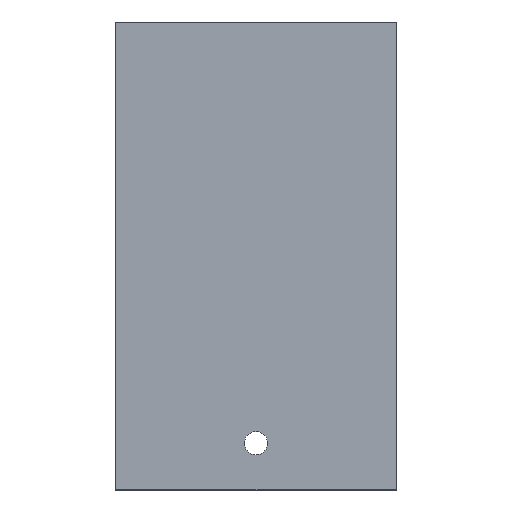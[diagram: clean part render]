
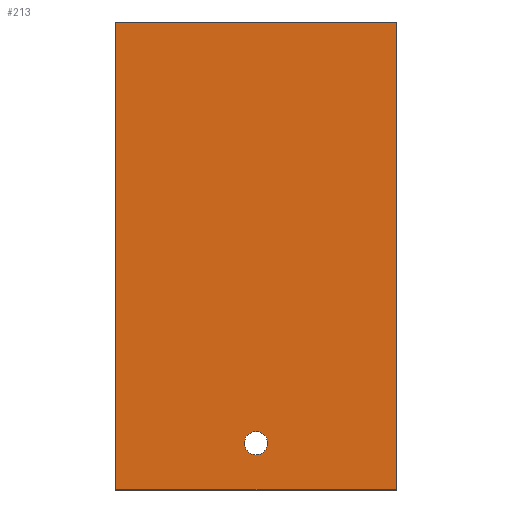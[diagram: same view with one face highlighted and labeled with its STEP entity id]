
A CAD part, top view. The second image highlights one B-rep face of the part: STEP entity #213.
In plain terms, the highlighted planar face has unit normal (0, 0, 1).
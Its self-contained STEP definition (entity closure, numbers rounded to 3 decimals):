
#24 = VERTEX_POINT('',#25);
#25 = CARTESIAN_POINT('',(40.,-30.,4.));
#32 = PLANE('',#33);
#33 = AXIS2_PLACEMENT_3D('',#34,#35,#36);
#34 = CARTESIAN_POINT('',(40.,-30.,3.4));
#35 = DIRECTION('',(1.,0.,0.));
#36 = DIRECTION('',(0.,0.,1.));
#44 = PLANE('',#45);
#45 = AXIS2_PLACEMENT_3D('',#46,#47,#48);
#46 = CARTESIAN_POINT('',(40.,-30.,3.4));
#47 = DIRECTION('',(0.,1.,0.));
#48 = DIRECTION('',(0.,0.,1.));
#85 = VERTEX_POINT('',#86);
#86 = CARTESIAN_POINT('',(40.,10.,4.));
#100 = PLANE('',#101);
#101 = AXIS2_PLACEMENT_3D('',#102,#103,#104);
#102 = CARTESIAN_POINT('',(40.,10.,3.4));
#103 = DIRECTION('',(0.,1.,0.));
#104 = DIRECTION('',(0.,0.,1.));
#112 = EDGE_CURVE('',#24,#85,#113,.T.);
#113 = SURFACE_CURVE('',#114,(#118,#125),.PCURVE_S1.);
#114 = LINE('',#115,#116);
#115 = CARTESIAN_POINT('',(40.,-30.,4.));
#116 = VECTOR('',#117,1.);
#117 = DIRECTION('',(0.,1.,0.));
#118 = PCURVE('',#32,#119);
#119 = DEFINITIONAL_REPRESENTATION('',(#120),#124);
#120 = LINE('',#121,#122);
#121 = CARTESIAN_POINT('',(0.6,0.));
#122 = VECTOR('',#123,1.);
#123 = DIRECTION('',(0.,-1.));
#124 = ( GEOMETRIC_REPRESENTATION_CONTEXT(2) 
PARAMETRIC_REPRESENTATION_CONTEXT() REPRESENTATION_CONTEXT('2D SPACE',''
  ) );
#125 = PCURVE('',#126,#131);
#126 = PLANE('',#127);
#127 = AXIS2_PLACEMENT_3D('',#128,#129,#130);
#128 = CARTESIAN_POINT('',(40.,-30.,4.));
#129 = DIRECTION('',(0.,0.,1.));
#130 = DIRECTION('',(1.,0.,0.));
#131 = DEFINITIONAL_REPRESENTATION('',(#132),#136);
#132 = LINE('',#133,#134);
#133 = CARTESIAN_POINT('',(0.,0.));
#134 = VECTOR('',#135,1.);
#135 = DIRECTION('',(0.,1.));
#136 = ( GEOMETRIC_REPRESENTATION_CONTEXT(2) 
PARAMETRIC_REPRESENTATION_CONTEXT() REPRESENTATION_CONTEXT('2D SPACE',''
  ) );
#165 = EDGE_CURVE('',#24,#166,#168,.T.);
#166 = VERTEX_POINT('',#167);
#167 = CARTESIAN_POINT('',(64.,-30.,4.));
#168 = SURFACE_CURVE('',#169,(#173,#180),.PCURVE_S1.);
#169 = LINE('',#170,#171);
#170 = CARTESIAN_POINT('',(40.,-30.,4.));
#171 = VECTOR('',#172,1.);
#172 = DIRECTION('',(1.,0.,0.));
#173 = PCURVE('',#44,#174);
#174 = DEFINITIONAL_REPRESENTATION('',(#175),#179);
#175 = LINE('',#176,#177);
#176 = CARTESIAN_POINT('',(0.6,0.));
#177 = VECTOR('',#178,1.);
#178 = DIRECTION('',(0.,1.));
#179 = ( GEOMETRIC_REPRESENTATION_CONTEXT(2) 
PARAMETRIC_REPRESENTATION_CONTEXT() REPRESENTATION_CONTEXT('2D SPACE',''
  ) );
#180 = PCURVE('',#126,#181);
#181 = DEFINITIONAL_REPRESENTATION('',(#182),#186);
#182 = LINE('',#183,#184);
#183 = CARTESIAN_POINT('',(0.,0.));
#184 = VECTOR('',#185,1.);
#185 = DIRECTION('',(1.,0.));
#186 = ( GEOMETRIC_REPRESENTATION_CONTEXT(2) 
PARAMETRIC_REPRESENTATION_CONTEXT() REPRESENTATION_CONTEXT('2D SPACE',''
  ) );
#202 = PLANE('',#203);
#203 = AXIS2_PLACEMENT_3D('',#204,#205,#206);
#204 = CARTESIAN_POINT('',(64.,-30.,3.4));
#205 = DIRECTION('',(1.,0.,0.));
#206 = DIRECTION('',(0.,0.,1.));
#213 = ADVANCED_FACE('',(#214,#262),#126,.T.);
#214 = FACE_BOUND('',#215,.T.);
#215 = EDGE_LOOP('',(#216,#217,#218,#241));
#216 = ORIENTED_EDGE('',*,*,#112,.F.);
#217 = ORIENTED_EDGE('',*,*,#165,.T.);
#218 = ORIENTED_EDGE('',*,*,#219,.T.);
#219 = EDGE_CURVE('',#166,#220,#222,.T.);
#220 = VERTEX_POINT('',#221);
#221 = CARTESIAN_POINT('',(64.,10.,4.));
#222 = SURFACE_CURVE('',#223,(#227,#234),.PCURVE_S1.);
#223 = LINE('',#224,#225);
#224 = CARTESIAN_POINT('',(64.,-30.,4.));
#225 = VECTOR('',#226,1.);
#226 = DIRECTION('',(0.,1.,0.));
#227 = PCURVE('',#126,#228);
#228 = DEFINITIONAL_REPRESENTATION('',(#229),#233);
#229 = LINE('',#230,#231);
#230 = CARTESIAN_POINT('',(24.,0.));
#231 = VECTOR('',#232,1.);
#232 = DIRECTION('',(0.,1.));
#233 = ( GEOMETRIC_REPRESENTATION_CONTEXT(2) 
PARAMETRIC_REPRESENTATION_CONTEXT() REPRESENTATION_CONTEXT('2D SPACE',''
  ) );
#234 = PCURVE('',#202,#235);
#235 = DEFINITIONAL_REPRESENTATION('',(#236),#240);
#236 = LINE('',#237,#238);
#237 = CARTESIAN_POINT('',(0.6,0.));
#238 = VECTOR('',#239,1.);
#239 = DIRECTION('',(0.,-1.));
#240 = ( GEOMETRIC_REPRESENTATION_CONTEXT(2) 
PARAMETRIC_REPRESENTATION_CONTEXT() REPRESENTATION_CONTEXT('2D SPACE',''
  ) );
#241 = ORIENTED_EDGE('',*,*,#242,.F.);
#242 = EDGE_CURVE('',#85,#220,#243,.T.);
#243 = SURFACE_CURVE('',#244,(#248,#255),.PCURVE_S1.);
#244 = LINE('',#245,#246);
#245 = CARTESIAN_POINT('',(40.,10.,4.));
#246 = VECTOR('',#247,1.);
#247 = DIRECTION('',(1.,0.,0.));
#248 = PCURVE('',#126,#249);
#249 = DEFINITIONAL_REPRESENTATION('',(#250),#254);
#250 = LINE('',#251,#252);
#251 = CARTESIAN_POINT('',(0.,40.));
#252 = VECTOR('',#253,1.);
#253 = DIRECTION('',(1.,0.));
#254 = ( GEOMETRIC_REPRESENTATION_CONTEXT(2) 
PARAMETRIC_REPRESENTATION_CONTEXT() REPRESENTATION_CONTEXT('2D SPACE',''
  ) );
#255 = PCURVE('',#100,#256);
#256 = DEFINITIONAL_REPRESENTATION('',(#257),#261);
#257 = LINE('',#258,#259);
#258 = CARTESIAN_POINT('',(0.6,0.));
#259 = VECTOR('',#260,1.);
#260 = DIRECTION('',(0.,1.));
#261 = ( GEOMETRIC_REPRESENTATION_CONTEXT(2) 
PARAMETRIC_REPRESENTATION_CONTEXT() REPRESENTATION_CONTEXT('2D SPACE',''
  ) );
#262 = FACE_BOUND('',#263,.T.);
#263 = EDGE_LOOP('',(#264));
#264 = ORIENTED_EDGE('',*,*,#265,.F.);
#265 = EDGE_CURVE('',#266,#266,#268,.T.);
#266 = VERTEX_POINT('',#267);
#267 = CARTESIAN_POINT('',(53.,-26.,4.));
#268 = SURFACE_CURVE('',#269,(#274,#281),.PCURVE_S1.);
#269 = CIRCLE('',#270,1.);
#270 = AXIS2_PLACEMENT_3D('',#271,#272,#273);
#271 = CARTESIAN_POINT('',(52.,-26.,4.));
#272 = DIRECTION('',(0.,0.,1.));
#273 = DIRECTION('',(1.,0.,-0.));
#274 = PCURVE('',#126,#275);
#275 = DEFINITIONAL_REPRESENTATION('',(#276),#280);
#276 = CIRCLE('',#277,1.);
#277 = AXIS2_PLACEMENT_2D('',#278,#279);
#278 = CARTESIAN_POINT('',(12.,4.));
#279 = DIRECTION('',(1.,0.));
#280 = ( GEOMETRIC_REPRESENTATION_CONTEXT(2) 
PARAMETRIC_REPRESENTATION_CONTEXT() REPRESENTATION_CONTEXT('2D SPACE',''
  ) );
#281 = PCURVE('',#282,#287);
#282 = CYLINDRICAL_SURFACE('',#283,1.);
#283 = AXIS2_PLACEMENT_3D('',#284,#285,#286);
#284 = CARTESIAN_POINT('',(52.,-26.,3.4));
#285 = DIRECTION('',(0.,0.,1.));
#286 = DIRECTION('',(1.,0.,-0.));
#287 = DEFINITIONAL_REPRESENTATION('',(#288),#292);
#288 = LINE('',#289,#290);
#289 = CARTESIAN_POINT('',(0.,0.6));
#290 = VECTOR('',#291,1.);
#291 = DIRECTION('',(1.,0.));
#292 = ( GEOMETRIC_REPRESENTATION_CONTEXT(2) 
PARAMETRIC_REPRESENTATION_CONTEXT() REPRESENTATION_CONTEXT('2D SPACE',''
  ) );
